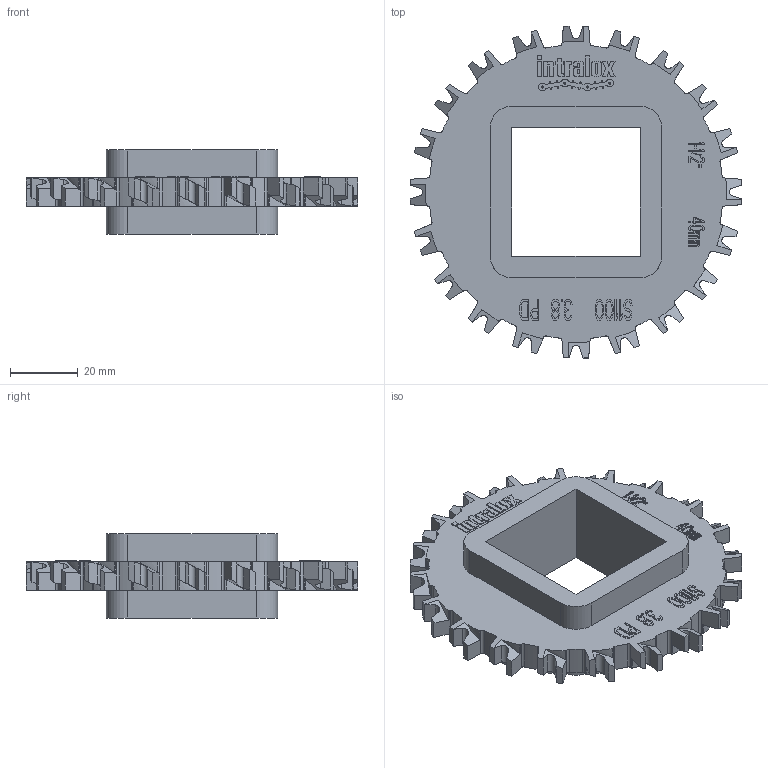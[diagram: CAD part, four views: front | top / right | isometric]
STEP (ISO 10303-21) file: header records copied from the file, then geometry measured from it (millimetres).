
FILE_DESCRIPTION((''),'2;1');
FILE_NAME('S1100_SPROCKET_38X15_40_SQ','2008-12-12T',('jmumphre'),(''),'PRO/ENGINEER BY PARAMETRIC TECHNOLOGY CORPORATION, 2008150','PRO/ENGINEER BY PARAMETRIC TECHNOLOGY CORPORATION, 2008150','');
FILE_SCHEMA(('CONFIG_CONTROL_DESIGN'));
Length unit declared in the file: inch
Products named in the file (1): S1100_SPROCKET_38X15_40_SQ
Bounding box: 98.35 x 98.35 x 24.89 mm (x, y, z)
Volume: 60586.8 mm3; surface area: 21668.4 mm2
Topology: 1 solids, 1 shells, 1111 faces, 3186 edges, 2124 vertices
Faces by surface type: plane 855, cylinder 256
Entity records: 36656 total; most frequent: CARTESIAN_POINT 7341, ORIENTED_EDGE 6372, DIRECTION 5680, EDGE_CURVE 3186, VECTOR 2674, LINE 2674, VERTEX_POINT 2124, AXIS2_PLACEMENT_3D 1503
